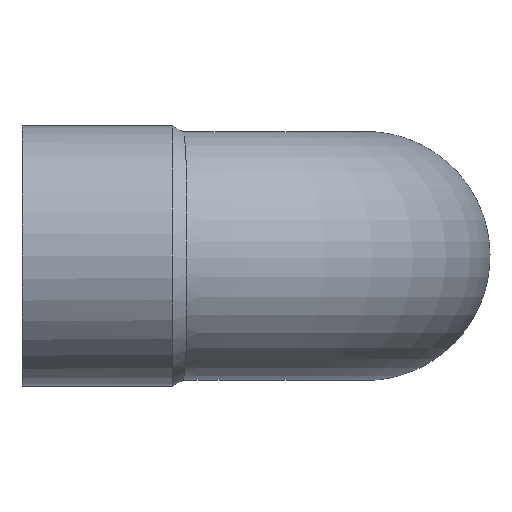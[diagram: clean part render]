
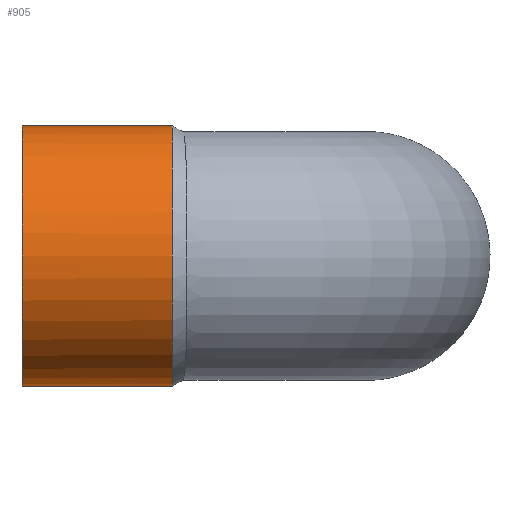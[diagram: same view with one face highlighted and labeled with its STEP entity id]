
A CAD part, front view. The second image highlights one B-rep face of the part: STEP entity #905.
In plain terms, the highlighted cylindrical face has radius 27.2 mm (diameter 54.4 mm), a full revolution.
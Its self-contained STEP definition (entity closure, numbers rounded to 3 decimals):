
#275=CARTESIAN_POINT('',(11.422,-28.148,14.438));
#276=VERTEX_POINT('',#275);
#277=CARTESIAN_POINT('',(11.422,-28.148,-14.438));
#278=VERTEX_POINT('',#277);
#312=CARTESIAN_POINT('',(11.422,-28.148,-14.438));
#313=CARTESIAN_POINT('',(11.016,-27.054,-12.691));
#314=CARTESIAN_POINT('',(10.709,-26.153,-10.81));
#315=CARTESIAN_POINT('',(10.482,-25.474,-8.833));
#316=CARTESIAN_POINT('',(10.303,-24.938,-7.271));
#317=CARTESIAN_POINT('',(10.175,-24.543,-5.658));
#318=CARTESIAN_POINT('',(10.096,-24.298,-4.018));
#319=CARTESIAN_POINT('',(10.023,-24.071,-2.495));
#320=CARTESIAN_POINT('',(9.991,-23.973,-0.949));
#321=CARTESIAN_POINT('',(10.002,-24.006,0.589));
#322=CARTESIAN_POINT('',(10.016,-24.051,2.649));
#323=CARTESIAN_POINT('',(10.105,-24.33,4.698));
#324=CARTESIAN_POINT('',(10.271,-24.837,6.695));
#325=CARTESIAN_POINT('',(10.387,-25.191,8.091));
#326=CARTESIAN_POINT('',(10.541,-25.655,9.451));
#327=CARTESIAN_POINT('',(10.734,-26.219,10.761));
#328=CARTESIAN_POINT('',(10.923,-26.769,12.038));
#329=CARTESIAN_POINT('',(11.15,-27.415,13.268));
#330=CARTESIAN_POINT('',(11.422,-28.148,14.438));
#331=B_SPLINE_CURVE_WITH_KNOTS('',3,(#312,#313,#314,#315,#316,#317,#318,#319,#320,#321,#322,#323,#324,#325,#326,#327,#328,#329,#330),.UNSPECIFIED.,.F.,.U.,(4,3,3,3,3,3,4),(-3.064,-2.435,-1.937,-1.474,-0.855,-0.422,0.0),.UNSPECIFIED.);
#332=EDGE_CURVE('',#278,#276,#331,.T.);
#825=CARTESIAN_POINT('',(-20.,-78.4,0.0));
#826=VERTEX_POINT('',#825);
#827=CARTESIAN_POINT('',(-20.0,-51.2,0.0));
#828=DIRECTION('',(-1.0,0.0,0.0));
#829=DIRECTION('',(0.0,-1.0,0.0));
#830=AXIS2_PLACEMENT_3D('',#827,#828,#829);
#831=CIRCLE('',#830,27.2);
#832=EDGE_CURVE('',#826,#826,#831,.T.);
#870=CARTESIAN_POINT('',(11.422,-51.2,0.0));
#871=DIRECTION('',(-1.0,0.0,0.0));
#872=DIRECTION('',(0.0,-1.0,0.0));
#873=AXIS2_PLACEMENT_3D('',#870,#871,#872);
#874=CIRCLE('',#873,27.2);
#875=EDGE_CURVE('',#278,#276,#874,.T.);
#893=CARTESIAN_POINT('',(-4.289,-51.2,0.0));
#894=DIRECTION('',(-1.0,0.,0.0));
#895=DIRECTION('',(0.0,-1.0,0.0));
#896=AXIS2_PLACEMENT_3D('',#893,#894,#895);
#897=CYLINDRICAL_SURFACE('',#896,27.2);
#898=ORIENTED_EDGE('',*,*,#875,.T.);
#899=ORIENTED_EDGE('',*,*,#332,.F.);
#900=EDGE_LOOP('',(#898,#899));
#901=FACE_OUTER_BOUND('',#900,.T.);
#902=ORIENTED_EDGE('',*,*,#832,.F.);
#903=EDGE_LOOP('',(#902));
#904=FACE_BOUND('',#903,.T.);
#905=ADVANCED_FACE('',(#901,#904),#897,.T.);
